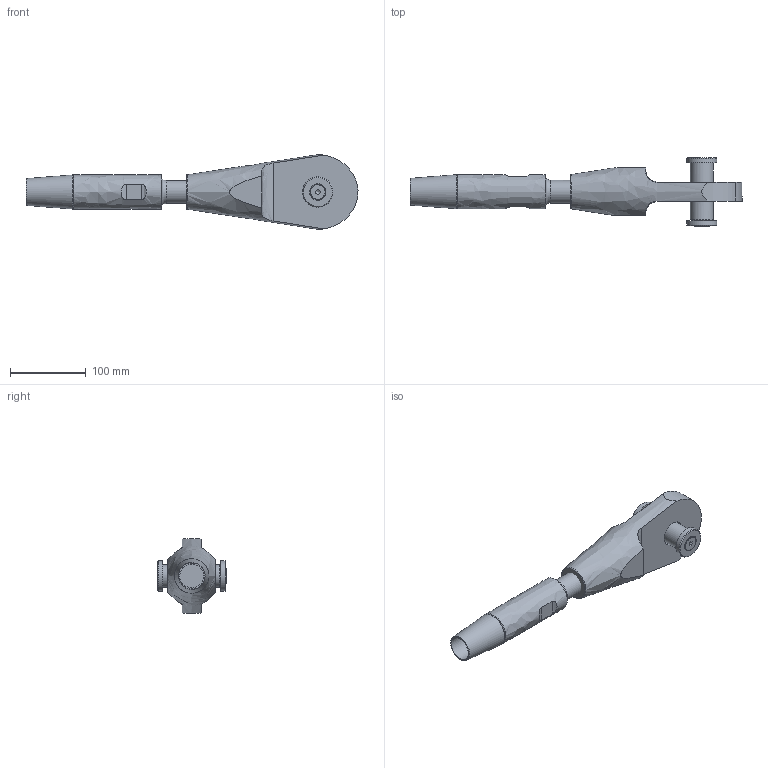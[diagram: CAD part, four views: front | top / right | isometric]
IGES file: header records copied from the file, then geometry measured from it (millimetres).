
Global section: file name: 520-030-OES-ADA; native system: Autodesk Inventor 2020; preprocessor: unknown; author: Administrator; date: 20201007.153513; units: millimetre
Bounding box: 437.44 x 90.75 x 98.25 mm (x, y, z)
Volume: 893355.8 mm3; surface area: 109698.9 mm2
Topology: 6 solids, 6 shells, 63 faces, 152 edges, 106 vertices
Faces by surface type: bspline 63
